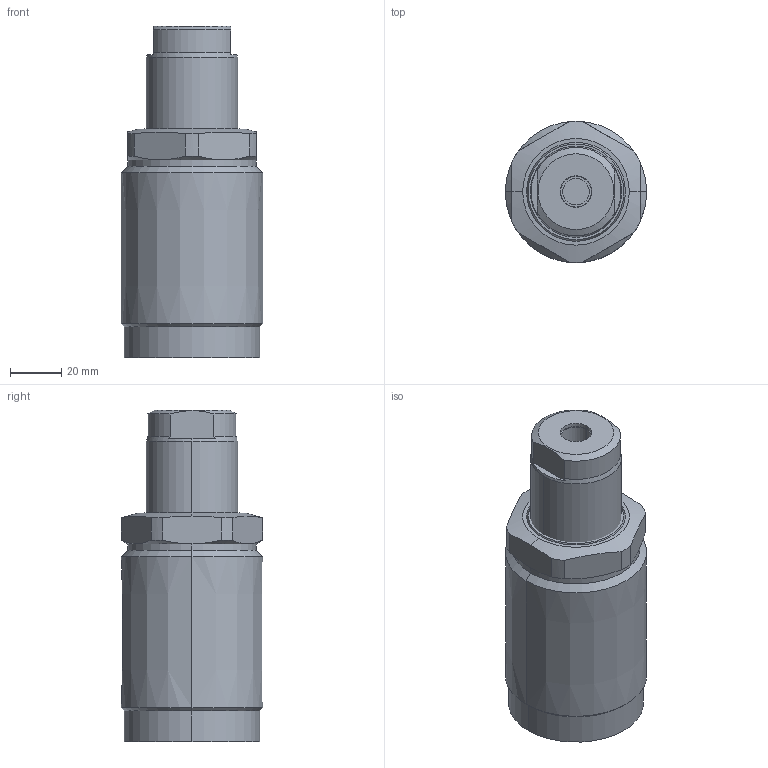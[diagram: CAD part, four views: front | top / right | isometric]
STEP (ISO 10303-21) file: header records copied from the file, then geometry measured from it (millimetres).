
FILE_DESCRIPTION (( 'STEP AP203' ), '1' );
FILE_NAME ('650551-AL.step', '2016-11-02T03:14:52', ( 'wxp' ), ( '' ), 'SwSTEP 2.0', 'SolidWorks 2011', '' );
FILE_SCHEMA (( 'CONFIG_CONTROL_DESIGN' ));
Length unit declared in the file: millimetre
Products named in the file (3): 650551-AL; 葩璃 650551-AL.sldasm-Part-2^650551-AL; 葩璃 650551-AL.sldasm-Part-1^650551-AL
Assembly tree (2 placements, depth 2):
  650551-AL
    葩璃 650551-AL.sldasm-Part-2^650551-AL
    葩璃 650551-AL.sldasm-Part-1^650551-AL
Bounding box: 55 x 55 x 129 mm (x, y, z)
Volume: 242238.5 mm3; surface area: 28349.9 mm2
Topology: 2 solids, 2 shells, 83 faces, 184 edges, 111 vertices
Faces by surface type: cylinder 32, cone 24, plane 21, torus 6
Entity records: 2707 total; most frequent: CARTESIAN_POINT 599, DIRECTION 400, ORIENTED_EDGE 364, EDGE_CURVE 182, AXIS2_PLACEMENT_3D 176, VERTEX_POINT 111, EDGE_LOOP 91, CIRCLE 88
